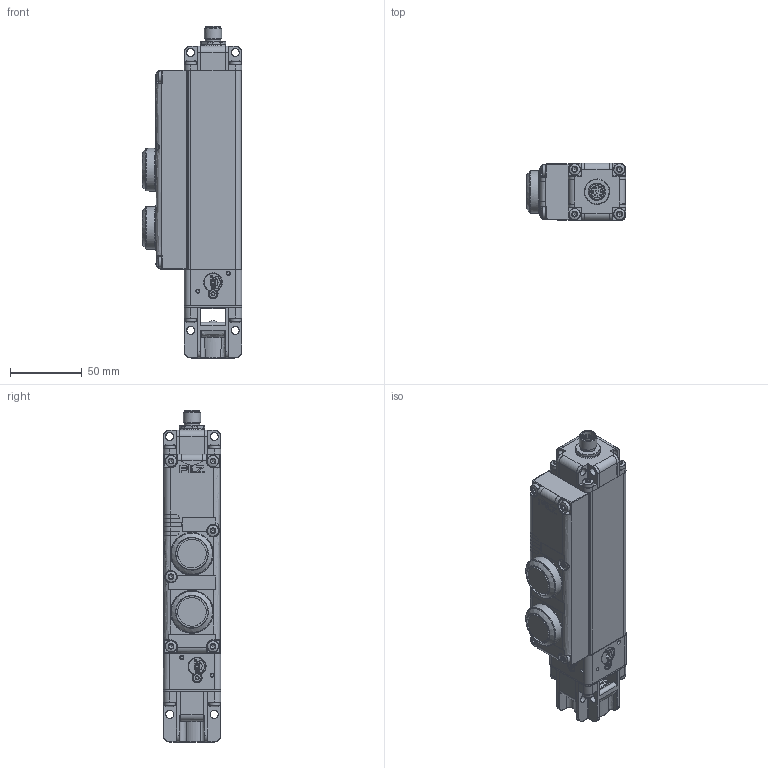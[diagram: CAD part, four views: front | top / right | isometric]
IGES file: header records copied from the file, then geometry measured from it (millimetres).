
Global section: file name: 2038030_A_PSENmg1-A-xxxxx-Rxxx-Sx-U; native system: Autodesk Inventor 2024; preprocessor: unknown; author: prim; date: 20250815.113327; units: millimetre
Bounding box: 69.25 x 40 x 231.2 mm (x, y, z)
Volume: 422866.4 mm3; surface area: 60930.4 mm2
Topology: 1 solids, 1 shells, 1902 faces, 4878 edges, 3012 vertices
Faces by surface type: bspline 1902
